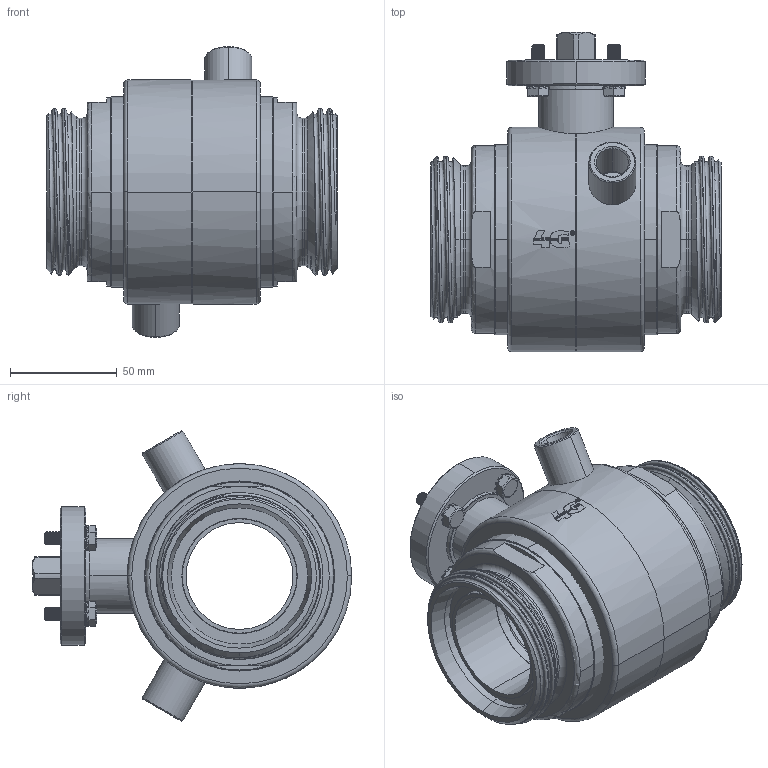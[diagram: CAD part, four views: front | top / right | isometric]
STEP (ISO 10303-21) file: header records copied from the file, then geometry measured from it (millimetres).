
FILE_DESCRIPTION((''),'2;1');
FILE_NAME('103025C63810_ASM_SW0001','2015-03-04T',('uff_tec'),('CDM Tecnoconsulting'),'PRO/ENGINEER BY PARAMETRIC TECHNOLOGY CORPORATION, 2010280','PRO/ENGINEER BY PARAMETRIC TECHNOLOGY CORPORATION, 2010280','');
FILE_SCHEMA(('CONFIG_CONTROL_DESIGN','SHAPE_APPEARANCE_LAYERS_GROUPS'));
Length unit declared in the file: millimetre
Products named in the file (1): 103025C63810_ASM_SW0001
Bounding box: 136 x 149.5 x 136.07 mm (x, y, z)
Surface area: 144165.8 mm2 (no closed solid volume)
Topology: 0 solids, 53 shells, 918 faces, 3611 edges, 2681 vertices
Faces by surface type: cylinder 349, plane 333, cone 120, bspline 96, torus 20
Entity records: 65677 total; most frequent: CARTESIAN_POINT 38297, ORIENTED_EDGE 5988, DIRECTION 4539, EDGE_CURVE 3609, VERTEX_POINT 2681, AXIS2_PLACEMENT_3D 1589, B_SPLINE_CURVE_WITH_KNOTS 1481, VECTOR 1361
